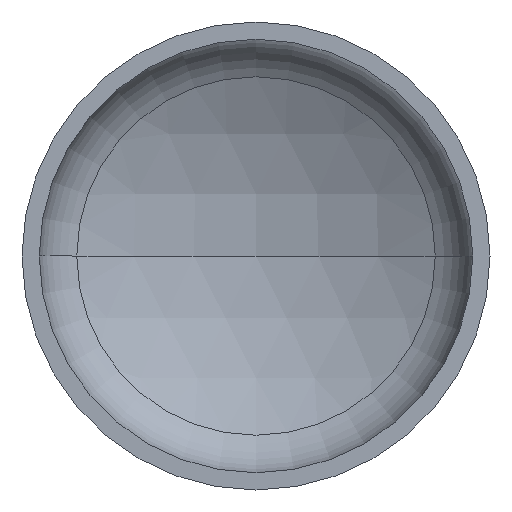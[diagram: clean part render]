
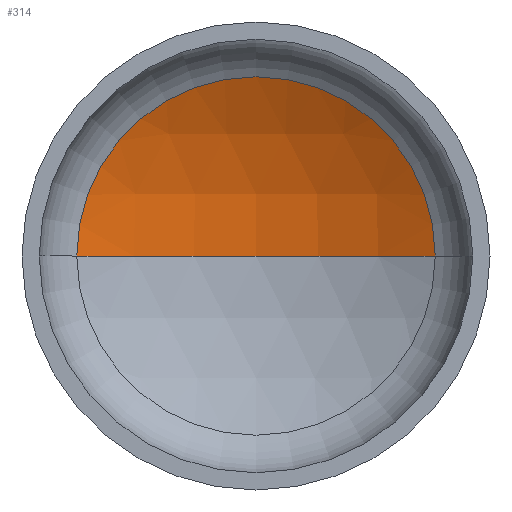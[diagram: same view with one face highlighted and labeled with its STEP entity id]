
A CAD part, front view. The second image highlights one B-rep face of the part: STEP entity #314.
In plain terms, the highlighted spherical face has radius 2080 mm.
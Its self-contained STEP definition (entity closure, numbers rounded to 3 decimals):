
#9 = AXIS2_PLACEMENT_3D ( 'NONE', #383, #187, #134 ) ;
#10 = DIRECTION ( 'NONE',  ( 0., 0., -1. ) ) ;
#14 = EDGE_LOOP ( 'NONE', ( #108, #57, #99 ) ) ;
#18 = VERTEX_POINT ( 'NONE', #262 ) ;
#19 = CARTESIAN_POINT ( 'NONE',  ( 0., -1375.122, 0. ) ) ;
#25 = CARTESIAN_POINT ( 'NONE',  ( 0., 704.878, 0. ) ) ;
#29 = AXIS2_PLACEMENT_3D ( 'NONE', #250, #270, #98 ) ;
#30 = AXIS2_PLACEMENT_3D ( 'NONE', #19, #10, #292 ) ;
#31 = AXIS2_PLACEMENT_3D ( 'NONE', #176, #347, #199 ) ;
#57 = ORIENTED_EDGE ( 'NONE', *, *, #95, .T. ) ;
#91 = EDGE_CURVE ( 'NONE', #120, #18, #273, .T. ) ;
#95 = EDGE_CURVE ( 'NONE', #101, #120, #208, .T. ) ;
#96 = EDGE_CURVE ( 'NONE', #101, #18, #387, .T. ) ;
#98 = DIRECTION ( 'NONE',  ( 1., 0., 0. ) ) ;
#99 = ORIENTED_EDGE ( 'NONE', *, *, #91, .T. ) ;
#101 = VERTEX_POINT ( 'NONE', #25 ) ;
#108 = ORIENTED_EDGE ( 'NONE', *, *, #96, .F. ) ;
#111 = FACE_OUTER_BOUND ( 'NONE', #14, .T. ) ;
#120 = VERTEX_POINT ( 'NONE', #209 ) ;
#134 = DIRECTION ( 'NONE',  ( -1., 0., 0. ) ) ;
#176 = CARTESIAN_POINT ( 'NONE',  ( 0., 451.219, 0. ) ) ;
#187 = DIRECTION ( 'NONE',  ( 0., 0., -1. ) ) ;
#199 = DIRECTION ( 'NONE',  ( 1., 0., 0. ) ) ;
#208 = CIRCLE ( 'NONE', #30, 2080. ) ;
#209 = CARTESIAN_POINT ( 'NONE',  ( 995.429, 451.219, 0. ) ) ;
#250 = CARTESIAN_POINT ( 'NONE',  ( 0., -1375.122, 0. ) ) ;
#262 = CARTESIAN_POINT ( 'NONE',  ( -995.429, 451.219, 0. ) ) ;
#270 = DIRECTION ( 'NONE',  ( 0., 0., 1. ) ) ;
#273 = CIRCLE ( 'NONE', #31, 995.429 ) ;
#292 = DIRECTION ( 'NONE',  ( -1., 0., 0. ) ) ;
#314 = ADVANCED_FACE ( 'NONE', ( #111 ), #378, .F. ) ;
#347 = DIRECTION ( 'NONE',  ( 0., -1., 0. ) ) ;
#378 = SPHERICAL_SURFACE ( 'NONE', #9, 2080. ) ;
#383 = CARTESIAN_POINT ( 'NONE',  ( 0., -1375.122, 0. ) ) ;
#387 = CIRCLE ( 'NONE', #29, 2080. ) ;
